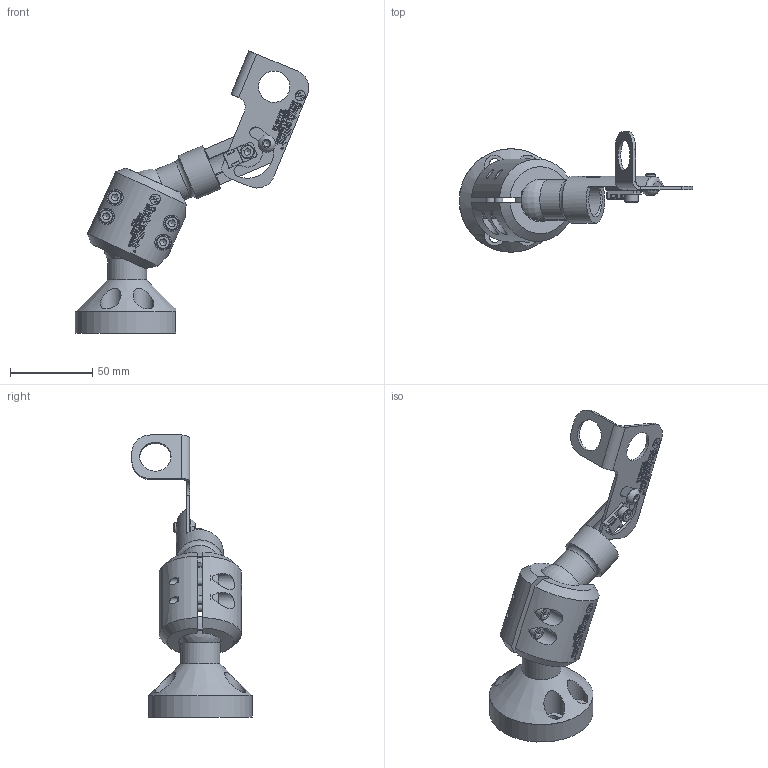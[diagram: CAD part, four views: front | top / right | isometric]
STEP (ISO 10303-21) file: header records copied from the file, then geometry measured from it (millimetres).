
FILE_DESCRIPTION (( 'STEP AP203' ), '1' );
FILE_NAME ('SLM-1000-SBKIT-18.STEP', '2020-06-02T12:42:18', ( '' ), ( '' ), 'SwSTEP 2.0', 'SolidWorks 2020', '' );
FILE_SCHEMA (( 'CONFIG_CONTROL_DESIGN' ));
Length unit declared in the file: inch
Products named in the file (10): SLM-2; SLM-1; SLM-1000-SBKIT-18; SLM-2_Swivellink Etching; SLM-SBH; SLM-SB-18; M6-1 x 10mm, Button Head, Black Oxide_MBHCS-86340-BO; M5-0.8 x 8mm, Socket Head, Black Oxide_MSHCS-39543-BO; MSHCS-39547-BO_MSHCS-39547-BO; 07281137
Assembly tree (12 placements, depth 3):
  SLM-1000-SBKIT-18
    SLM-1
    SLM-2
      SLM-2_Swivellink Etching
      MSHCS-39547-BO_MSHCS-39547-BO  x4
    SLM-SBH
    SLM-SB-18
    07281137
    M6-1 x 10mm, Button Head, Black Oxide_MBHCS-86340-BO
    M5-0.8 x 8mm, Socket Head, Black Oxide_MSHCS-39543-BO
Bounding box: 142.34 x 73.18 x 171.81 mm (x, y, z)
Volume: 82761.7 mm3; surface area: 54605.2 mm2
Topology: 11 solids, 13 shells, 535 faces, 3819 edges, 3516 vertices
Faces by surface type: plane 239, cylinder 238, cone 28, torus 15, sphere 11, bspline 4
Full cylindrical faces by diameter (mm): 4.2 x5, 5 x6, 5.08 x1, 5.8 x4, 6 x1, 7.144 x1, 8.5 x5, 10 x4, 10.5 x1, 12.7 x4, 19.05 x3, 20.638 x1, 23.812 x2, 28.499 x1
Entity records: 43367 total; most frequent: CARTESIAN_POINT 15497, ORIENTED_EDGE 7154, DIRECTION 3785, EDGE_CURVE 3579, VERTEX_POINT 3402, LINE 1625, VECTOR 1625, B_SPLINE_CURVE_WITH_KNOTS 1347
